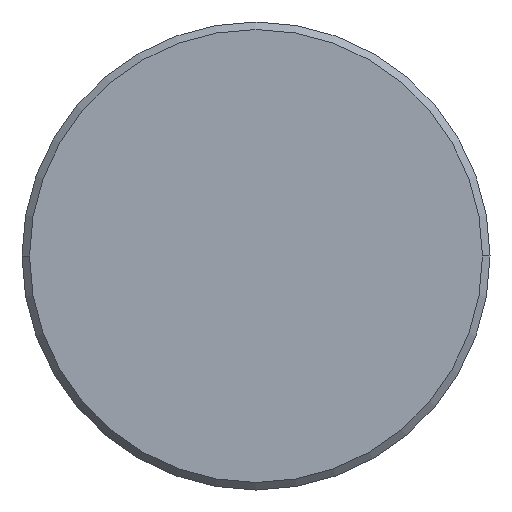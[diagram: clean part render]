
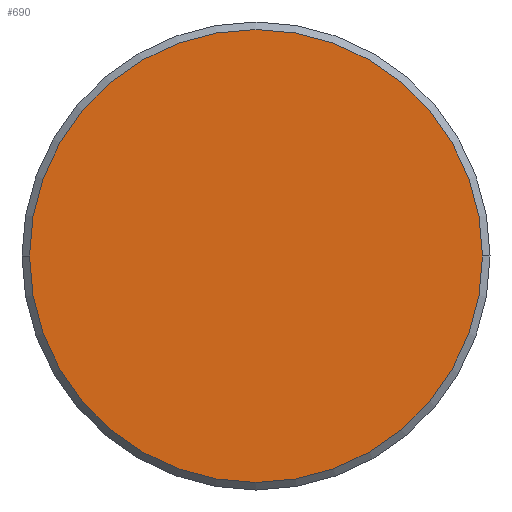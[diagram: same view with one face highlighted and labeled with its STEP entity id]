
A CAD part, front view. The second image highlights one B-rep face of the part: STEP entity #690.
In plain terms, the highlighted planar face has unit normal (0, -1, 0).
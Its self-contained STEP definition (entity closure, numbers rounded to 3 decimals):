
#17 = FACE_OUTER_BOUND ( 'NONE', #272, .T. ) ;
#20 = CARTESIAN_POINT ( 'NONE',  ( 0., -6., 0. ) ) ;
#24 = AXIS2_PLACEMENT_3D ( 'NONE', #177, #540, #475 ) ;
#121 = PLANE ( 'NONE',  #524 ) ;
#177 = CARTESIAN_POINT ( 'NONE',  ( 0., -6., 0. ) ) ;
#200 = ORIENTED_EDGE ( 'NONE', *, *, #785, .T. ) ;
#233 = VERTEX_POINT ( 'NONE', #497 ) ;
#272 = EDGE_LOOP ( 'NONE', ( #200, #361 ) ) ;
#361 = ORIENTED_EDGE ( 'NONE', *, *, #693, .T. ) ;
#400 = VERTEX_POINT ( 'NONE', #531 ) ;
#405 = CIRCLE ( 'NONE', #24, 15. ) ;
#447 = CIRCLE ( 'NONE', #484, 15. ) ;
#475 = DIRECTION ( 'NONE',  ( -1., 0., 0. ) ) ;
#484 = AXIS2_PLACEMENT_3D ( 'NONE', #758, #698, #631 ) ;
#497 = CARTESIAN_POINT ( 'NONE',  ( 15., -6., 0. ) ) ;
#524 = AXIS2_PLACEMENT_3D ( 'NONE', #20, #642, #624 ) ;
#531 = CARTESIAN_POINT ( 'NONE',  ( -15., -6., 0. ) ) ;
#540 = DIRECTION ( 'NONE',  ( 0., -1., 0. ) ) ;
#624 = DIRECTION ( 'NONE',  ( -1., 0., 0. ) ) ;
#631 = DIRECTION ( 'NONE',  ( -1., 0., 0. ) ) ;
#642 = DIRECTION ( 'NONE',  ( 0., 1., 0. ) ) ;
#690 = ADVANCED_FACE ( 'NONE', ( #17 ), #121, .F. ) ;
#693 = EDGE_CURVE ( 'NONE', #233, #400, #447, .T. ) ;
#698 = DIRECTION ( 'NONE',  ( 0., -1., 0. ) ) ;
#758 = CARTESIAN_POINT ( 'NONE',  ( 0., -6., 0. ) ) ;
#785 = EDGE_CURVE ( 'NONE', #400, #233, #405, .T. ) ;
